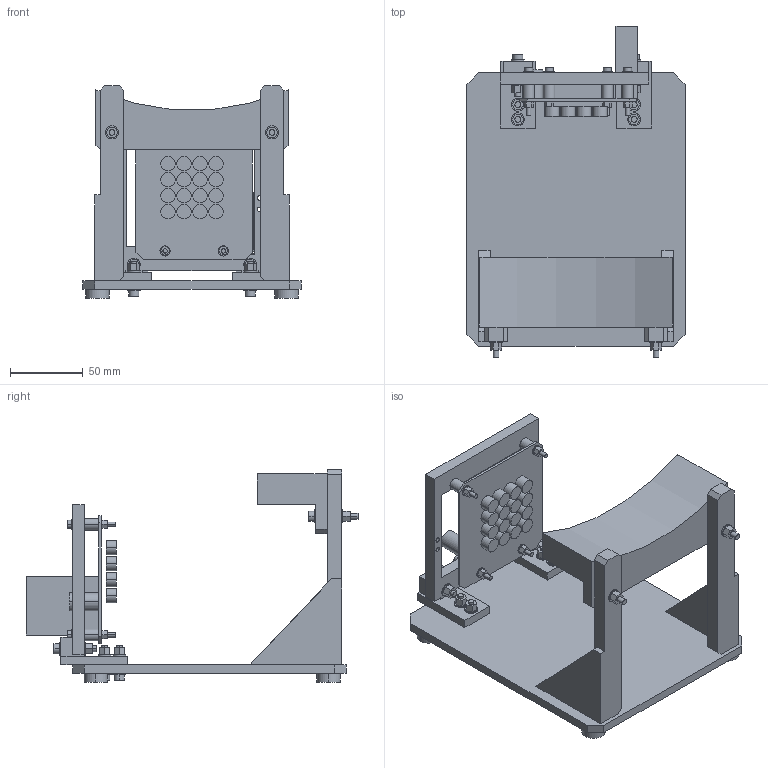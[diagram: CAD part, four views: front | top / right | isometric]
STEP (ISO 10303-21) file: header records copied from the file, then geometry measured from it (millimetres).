
FILE_DESCRIPTION (( 'STEP AP203' ), '1' );
FILE_NAME ('Vertical_wrist_assembly.step', '2026-10-07T08:36:57', ( '' ), ( '' ), 'SwSTEP 2.0', 'SolidWorks 2025', '' );
FILE_SCHEMA (( 'CONFIG_CONTROL_DESIGN' ));
Length unit declared in the file: millimetre
Products named in the file (18): REF_M4x20_screw; REF_M3x30_screw; 08_tx_fixed_shoe; REF_tx_rear_clearances; REF_M3_nylock; 04_wrist_cradle; REF_M4_nylock; REF_M3_washer; 03_fixed_base; REF_M4x25_screw; Vertical_wrist_assembly; REF_M4x30_screw; 05_pcb_standoff_10; 07_vertical_tx_frame; REF_M4_washer; REF_pcb_80x88; REF_16_emitters; REF_rubber_foot_16x6
Assembly tree (64 placements, depth 2):
  Vertical_wrist_assembly
    03_fixed_base
    07_vertical_tx_frame
    REF_pcb_80x88
    REF_16_emitters
    REF_tx_rear_clearances
    05_pcb_standoff_10  x4
    08_tx_fixed_shoe  x2
    REF_rubber_foot_16x6  x4
    REF_M4x20_screw  x4
    REF_M4_washer  x16
    REF_M4_nylock  x8
    REF_M4x25_screw  x2
    REF_M3x30_screw  x4
    REF_M3_washer  x8
    REF_M3_nylock  x4
    04_wrist_cradle
    REF_M4x30_screw  x2
Bounding box: 150 x 228.2 x 146 mm (x, y, z)
Volume: 449643.1 mm3; surface area: 171529.4 mm2
Topology: 80 solids, 80 shells, 622 faces, 1346 edges, 896 vertices
Faces by surface type: plane 339, cylinder 283
Entity records: 11470 total; most frequent: DIRECTION 1572, CARTESIAN_POINT 1406, ORIENTED_EDGE 1268, EDGE_CURVE 634, AXIS2_PLACEMENT_3D 588, VERTEX_POINT 422, LINE 396, VECTOR 396
